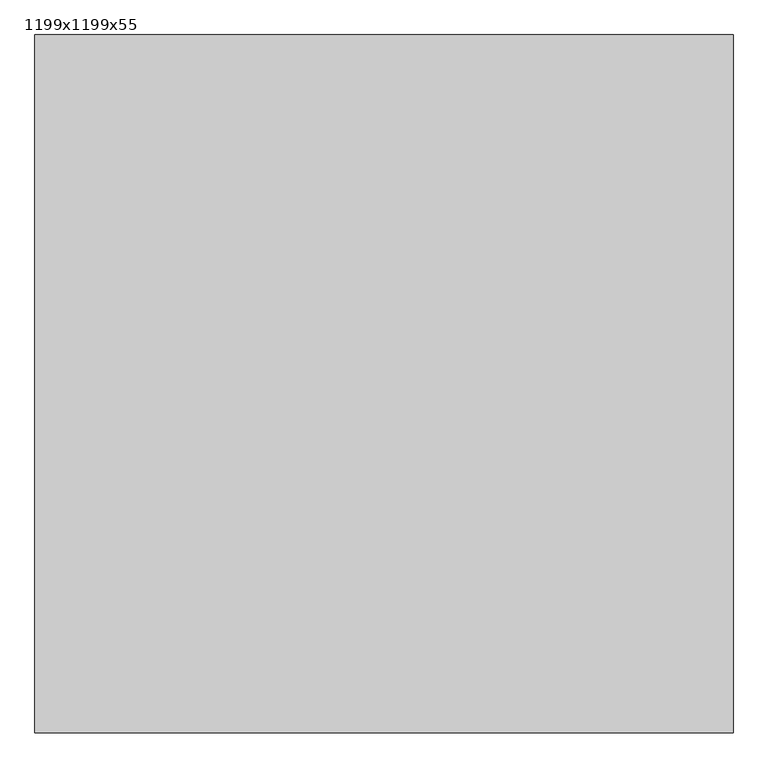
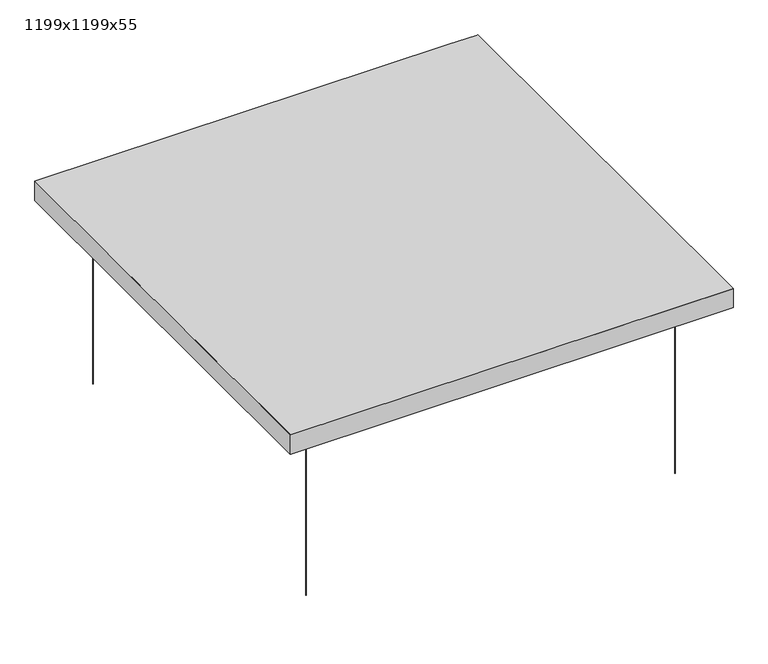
"""IFC4 building model written with IfcOpenShell, lengths in millimetres: proxy geometry, Texaa Panneaux_acoustiques Stereo suspendus_séparés : 1199x1199x55."""

from ifc_helpers import new_model, si_unit, point, frame, frame_2d, origin, origin_with_axes, place, context, project, spatial, polyline, circle_curve, trimmed, segment, composite_curve, outline, extrude, faceted_brep, source, transform, mapped, element, save


def proxy_1199x1199x55_c54ed7a7(model_context):
    return source(origin(), model_context, "Body", "SolidModel", [
        extrude(outline(composite_curve([segment(trimmed(circle_curve(frame_2d((-499.5, -499.5)), 0.75), [point((-500.25, -499.5))], [point((-498.75, -499.5))], False, "CARTESIAN"), True, "CONTINUOUS"), segment(trimmed(circle_curve(frame_2d((-499.5, -499.5)), 0.75), [point((-498.75, -499.5))], [point((-500.25, -499.5))], False, "CARTESIAN"), True, "CONTINUOUS")], self_intersect=False)), origin_with_axes(), (0.0, 0.0, 1.0), 500.0),
        extrude(outline(composite_curve([segment(trimmed(circle_curve(frame_2d((499.5, -499.5)), 0.75), [point((498.75, -499.5))], [point((500.25, -499.5))], False, "CARTESIAN"), True, "CONTINUOUS"), segment(trimmed(circle_curve(frame_2d((499.5, -499.5)), 0.75), [point((500.25, -499.5))], [point((498.75, -499.5))], False, "CARTESIAN"), True, "CONTINUOUS")], self_intersect=False)), origin_with_axes(), (0.0, 0.0, 1.0), 500.0),
        extrude(outline(composite_curve([segment(trimmed(circle_curve(frame_2d((499.5, 499.5)), 0.75), [point((498.75, 499.5))], [point((500.25, 499.5))], False, "CARTESIAN"), True, "CONTINUOUS"), segment(trimmed(circle_curve(frame_2d((499.5, 499.5)), 0.75), [point((500.25, 499.5))], [point((498.75, 499.5))], False, "CARTESIAN"), True, "CONTINUOUS")], self_intersect=False)), origin_with_axes(), (0.0, 0.0, 1.0), 500.0),
        extrude(outline(composite_curve([segment(trimmed(circle_curve(frame_2d((-499.5, 499.5)), 0.75), [point((-500.25, 499.5))], [point((-498.75, 499.5))], False, "CARTESIAN"), True, "CONTINUOUS"), segment(trimmed(circle_curve(frame_2d((-499.5, 499.5)), 0.75), [point((-498.75, 499.5))], [point((-500.25, 499.5))], False, "CARTESIAN"), True, "CONTINUOUS")], self_intersect=False)), origin_with_axes(), (0.0, 0.0, 1.0), 500.0),
        extrude(outline(polyline([(-598.5, -598.5), (-598.5, 598.5), (598.5, 598.5), (598.5, -598.5), (-598.5, -598.5)])), frame((0.0, 0.0, 501.0), z_axis=(0.0, 0.0, 1.0), x_axis=(1.0, 0.0, 0.0)), (0.0, 0.0, 1.0), 53.0),
        faceted_brep([(599.5, 599.5, 555.0), (598.0857864, 599.5, 555.0), (521.7182541, 599.5, 555.0), (-599.5, 599.5, 555.0), (-599.5, -521.7182541, 555.0), (-599.5, -598.0857864, 555.0), (-599.5, -599.5, 555.0), (599.5, -599.5, 555.0), (-599.5, -599.5, 500.0), (-599.5, 599.5, 500.0), (599.5, 599.5, 500.0), (599.5, -599.5, 500.0), (-549.5, 549.5, 500.0), (-549.5, -549.5, 500.0), (549.5, -549.5, 500.0), (549.5, 549.5, 500.0), (-599.5, -599.5, 554.0), (599.5, 599.5, 554.0), (549.5, 549.5, 501.0), (-549.5, 549.5, 501.0), (549.5, -549.5, 501.0), (-549.5, -549.5, 501.0), (-598.5, -598.5, 554.0), (-598.5, -597.0857864, 554.0), (-598.5, -520.7182541, 554.0), (-598.5, 598.5, 554.0), (520.7182541, 598.5, 554.0), (597.0857864, 598.5, 554.0), (598.5, 598.5, 554.0), (598.5, -598.5, 554.0), (-598.5, -598.5, 501.0), (598.5, -598.5, 501.0), (598.5, 598.5, 501.0), (-598.5, 598.5, 501.0)], [[[0, 1, 2, 3, 4, 5, 6, 7]], [[8, 9, 10, 11], [12, 13, 14, 15]], [[8, 16, 6, 5, 4, 3, 9]], [[9, 3, 2, 1, 0, 17, 10]], [[7, 11, 10, 17, 0]], [[6, 16, 8, 11, 7]], [[12, 15, 18, 19]], [[15, 14, 20, 18]], [[14, 13, 21, 20]], [[19, 21, 13, 12]], [[22, 23, 24, 25, 26, 27, 28, 29]], [[30, 31, 32, 33], [18, 20, 21, 19]], [[33, 25, 24, 23, 22, 30]], [[32, 28, 27, 26, 25, 33]], [[28, 32, 31, 29]], [[29, 31, 30, 22]]]),
    ])


if __name__ == "__main__":
    model = new_model("IFC4")
    model_context = context("Model", 3, world=origin())
    ifc_project = project(units=[si_unit("LENGTHUNIT", "METRE", prefix="MILLI")], contexts=[model_context])
    site = spatial("IfcSite", under=ifc_project)
    building = spatial("IfcBuilding", under=site)
    placement = place(None, origin())
    proxy_1199x1199x55_shape = proxy_1199x1199x55_c54ed7a7(model_context)
    element("IfcBuildingElementProxy", 1, Name="Texaa Panneaux_acoustiques Stereo suspendus_séparés : 1199x1199x55", ObjectType="Texaa Panneaux_acoustiques Stereo suspendus_séparés : 1199x1199x55", at=placement, inside=building, context=model_context, shape_type="MappedRepresentation", body=[
        mapped(proxy_1199x1199x55_shape, transform((0.0, 0.0, 0.0), x_axis=(1.0, 0.0, 0.0), y_axis=(0.0, 1.0, 0.0), z_axis=(0.0, 0.0, 1.0))),
    ])
    save(model, "model.ifc")
